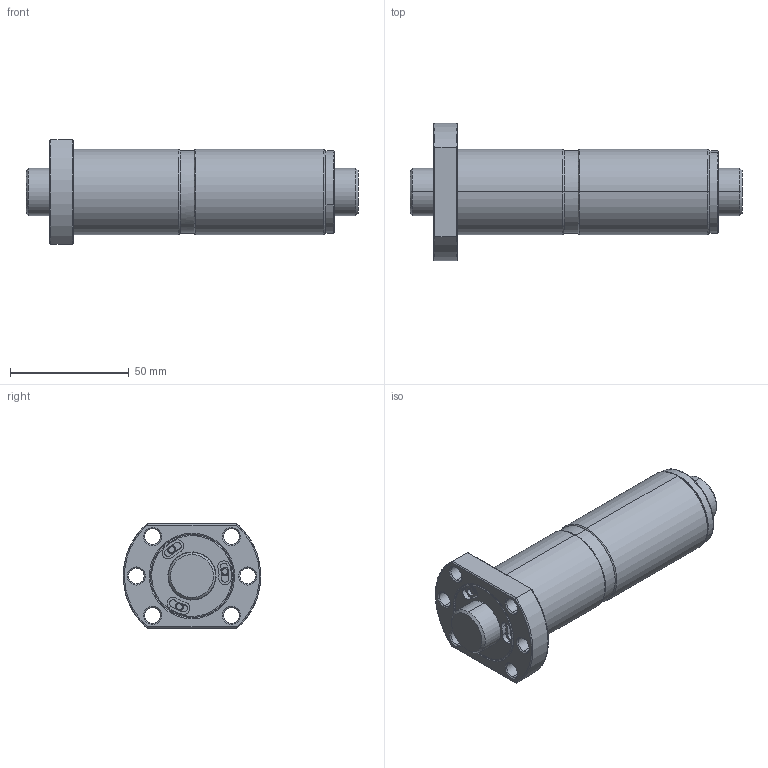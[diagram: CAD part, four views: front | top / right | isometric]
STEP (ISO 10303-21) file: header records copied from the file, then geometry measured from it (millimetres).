
FILE_DESCRIPTION (( 'STEP AP203' ), '1' );
FILE_NAME ('DFSR02010C1D-C.STEP', '2020-06-17T02:22:02', ( '' ), ( '' ), 'SwSTEP 2.0', 'SolidWorks 2013', '' );
FILE_SCHEMA (( 'CONFIG_CONTROL_DESIGN' ));
Length unit declared in the file: millimetre
Products named in the file (1): DFSR02010C1D-C
Bounding box: 140 x 58 x 44 mm (x, y, z)
Volume: 130286.4 mm3; surface area: 38008.4 mm2
Topology: 2 solids, 2 shells, 250 faces, 600 edges, 369 vertices
Faces by surface type: cylinder 134, plane 65, cone 33, bspline 18
Entity records: 9943 total; most frequent: CARTESIAN_POINT 3822, DIRECTION 1412, ORIENTED_EDGE 1200, AXIS2_PLACEMENT_3D 617, EDGE_CURVE 600, CIRCLE 384, VERTEX_POINT 369, EDGE_LOOP 295
